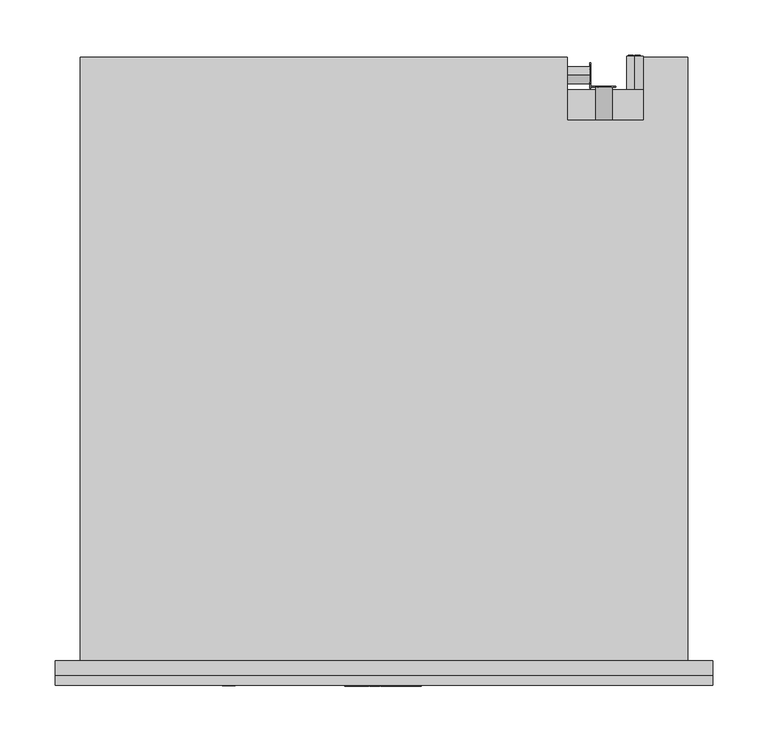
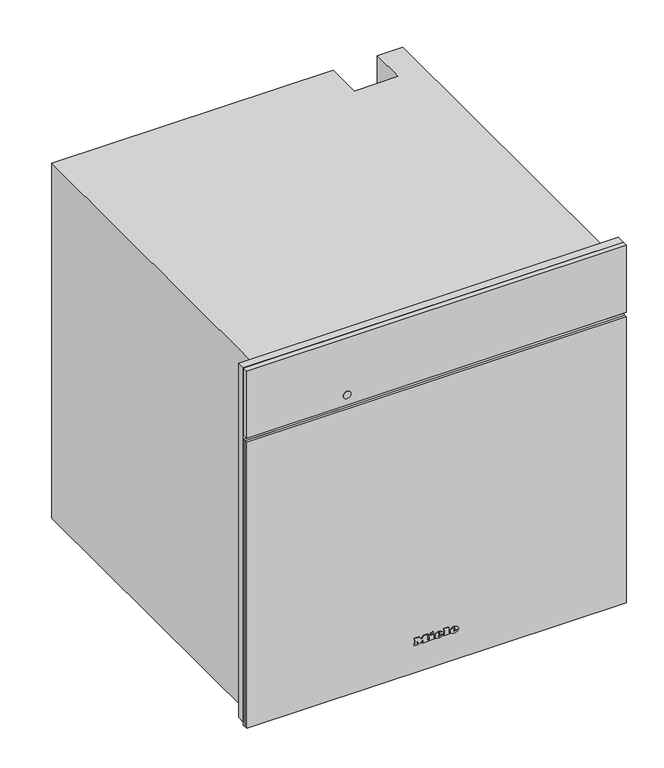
"""IFC4 building model written with IfcOpenShell, lengths in millimetres: proxy geometry, 12095620_F_DGC7865HCXPro_GRGR : 23786579_F_12095620_DGC7865HCXPro_GRGR."""

from ifc_helpers import new_model, si_unit, point, frame, frame_2d, origin, place, context, project, spatial, polyline, circle_curve, ellipse_curve, trimmed, segment, composite_curve, outline, extrude, faceted_brep, source, transform, mapped, element, save
from ifc_brep_helpers import plane_surface, cylinder_surface, revolved_surface, extruded_surface, advanced_brep


def specialty_equipment_e31bad16(model_context):
    return source(origin(), model_context, "Body", "SolidModel", [
        extrude(outline(polyline([(596.0, 297.5), (596.0, -297.5), (9.0, -297.5), (9.0, 297.5), (596.0, 297.5)]), holes=[polyline([(485.0, -272.5), (485.0, 272.5), (27.0, 272.5), (27.0, -272.5), (485.0, -272.5)])]), frame((0.0, -13.0, 0.0), z_axis=(0.0, 1.0, 0.0), x_axis=(0.0, 0.0, 1.0)), (0.0, 0.0, 1.0), 13.0),
        extrude(outline(polyline([(523.0, 196.9217896), (523.0, 198.4267862), (533.0435673, 201.1942402), (533.0435673, 199.9014806), (524.4295103, 197.7797951), (533.0470645, 195.3087512), (533.0470645, 193.4373937), (524.4121052, 190.9191482), (533.0472266, 188.8443938), (533.0472266, 187.5376524), (523.0, 190.2769667), (523.0, 191.6257455), (531.8347238, 194.3884733), (523.0, 196.9217896)])), frame((0.0, 519.0, 0.0), z_axis=(0.0, 1.0, 0.0), x_axis=(0.0, 0.0, 1.0)), (0.0, 0.0, 1.0), 1.0),
        extrude(outline(polyline([(533.0468463, 209.521488), (533.0468463, 208.2566067), (528.129594, 208.2566067), (533.0474898, 203.1074328), (533.0474898, 201.3597489), (528.9313111, 205.6695027), (523.0, 201.1858157), (523.0, 202.7358731), (528.0700777, 206.5685235), (526.4282746, 208.2823622), (523.0, 208.2823622), (523.0, 209.521488), (533.0468463, 209.521488)])), frame((0.0, 519.0, 0.0), z_axis=(0.0, 1.0, 0.0), x_axis=(0.0, 0.0, 1.0)), (0.0, 0.0, 1.0), 1.0),
        extrude(outline(polyline([(518.3136153, 20.0), (522.323529, 30.045631), (523.3928394, 30.045631), (527.4027531, 20.0), (526.0759254, 20.0), (524.925681, 23.1392597), (520.7882348, 23.1392597), (519.640443, 20.0), (518.3136153, 20.0)]), holes=[polyline([(521.2493136, 24.3949636), (524.4670548, 24.3949636), (523.5620651, 26.864678), (522.8581842, 28.7899271), (522.2327848, 27.0805021), (521.2493136, 24.3949636)])]), frame((186.0, 0.0, 0.0), z_axis=(1.0, 0.0, 0.0), x_axis=(0.0, 1.0, 0.0)), (0.0, 0.0, 1.0), 1.0),
        extrude(outline(polyline([(530.5420128, 20.0), (527.8025182, 30.045631), (529.0974628, 30.045631), (530.6867131, 23.4433755), (531.1772224, 21.4053092), (531.7020674, 23.207931), (533.6935352, 30.045631), (535.5599232, 30.045631), (537.0069257, 25.0890343), (538.0835937, 21.4053092), (538.5593878, 23.3845144), (540.1633533, 30.045631), (541.4582979, 30.045631), (538.7163507, 20.0), (537.3748077, 20.0), (534.9664069, 27.7500474), (534.630408, 28.8316204), (534.2527159, 27.5293182), (532.0576866, 20.0), (530.5420128, 20.0)])), frame((186.0, 0.0, 0.0), z_axis=(1.0, 0.0, 0.0), x_axis=(0.0, 1.0, 0.0)), (0.0, 0.0, 1.0), 1.0),
        advanced_brep(
        [(227.0, 547.0, 396.5), (227.0, 547.0, 381.5), (221.4098301, 547.0, 384.0), (225.5, 547.0, 384.0), (225.5, 547.0, 394.0), (224.4955303, 547.0, 394.0), (224.4955303, 547.0, 385.0), (221.0315043, 547.0, 385.0), (221.0315043, 547.0, 384.4582978), (232.0, 547.0, 384.0), (232.0, 547.0, 394.0), (227.0, 547.0, 394.0), (227.0, 547.0, 393.0), (231.0, 547.0, 393.0), (231.0, 547.0, 389.5), (228.0, 547.0, 389.5), (228.0, 547.0, 388.5), (231.0, 547.0, 388.5), (231.0, 547.0, 385.0), (227.0, 547.0, 385.0), (227.0, 547.0, 384.0), (227.0, 517.0, 381.5), (227.0, 517.0, 396.5), (232.0, 548.0, 394.0), (232.0, 548.0, 384.0), (227.0, 548.0, 384.0), (227.0, 548.0, 385.0), (231.0, 548.0, 385.0), (231.0, 548.0, 388.5), (228.0, 548.0, 388.5), (228.0, 548.0, 389.5), (231.0, 548.0, 389.5), (231.0, 548.0, 393.0), (227.0, 548.0, 393.0), (227.0, 548.0, 394.0), (225.5, 548.0, 384.0), (221.0315043, 548.0, 384.0), (221.0315043, 548.0, 385.0), (224.4955303, 548.0, 385.0), (224.4955303, 548.0, 394.0), (225.5, 548.0, 394.0), (221.0315043, 547.0, 384.0)],
        [
            (0, 1, circle_curve(frame((227.0, 547.0, 389.0), z_axis=(0.0, 1.0, 0.0), x_axis=(0.0, 0.0, 1.0)), 7.5)),
            (1, 2, circle_curve(frame((227.0, 547.0, 389.0), z_axis=(0.0, 1.0, 0.0), x_axis=(0.0, 0.0, 1.0)), 7.5)),
            (2, 3),
            (3, 4),
            (4, 5),
            (5, 6),
            (6, 7),
            (7, 8),
            (8, 0, circle_curve(frame((227.0, 547.0, 389.0), z_axis=(0.0, 1.0, 0.0), x_axis=(0.0, 0.0, 1.0)), 7.5)),
            (9, 10),
            (10, 11),
            (11, 12),
            (12, 13),
            (13, 14),
            (14, 15),
            (15, 16),
            (16, 17),
            (17, 18),
            (18, 19),
            (19, 20),
            (20, 9),
            (21, 22, circle_curve(frame((227.0, 517.0, 389.0), z_axis=(0.0, -1.0, 0.0), x_axis=(0.0, 0.0, 1.0)), 7.5)),
            (22, 21, circle_curve(frame((227.0, 517.0, 389.0), z_axis=(0.0, -1.0, 0.0), x_axis=(0.0, 0.0, 1.0)), 7.5)),
            (0, 22),
            (21, 1),
            (8, 2, circle_curve(frame((227.0, 547.0, 389.0), z_axis=(0.0, -1.0, 0.0), x_axis=(0.0, 0.0, 1.0)), 7.5)),
            (23, 24),
            (24, 25),
            (25, 26),
            (26, 27),
            (27, 28),
            (28, 29),
            (29, 30),
            (30, 31),
            (31, 32),
            (32, 33),
            (33, 34),
            (34, 23),
            (35, 36),
            (36, 37),
            (37, 38),
            (38, 39),
            (39, 40),
            (40, 35),
            (8, 41),
            (41, 2),
            (23, 10),
            (9, 24),
            (20, 25),
            (19, 26),
            (18, 27),
            (17, 28),
            (16, 29),
            (15, 30),
            (14, 31),
            (13, 32),
            (12, 33),
            (11, 34),
            (35, 3),
            (41, 36),
            (7, 37),
            (6, 38),
            (5, 39),
            (4, 40),
        ],
        [
            plane_surface(frame((227.0, 547.0, 396.5), z_axis=(0.0, 1.0, 0.0), x_axis=(1.0, 0.0, 0.0))),
            plane_surface(frame((227.0, 517.0, 396.5), z_axis=(0.0, -1.0, 0.0), x_axis=(-1.0, 0.0, 0.0))),
            cylinder_surface(frame((227.0, 547.0, 389.0), z_axis=(0.0, -1.0, 0.0), x_axis=(0.0, 0.0, 1.0)), 7.5),
            plane_surface(frame((232.0, 548.0, 394.0), z_axis=(0.0, 1.0, 0.0), x_axis=(0.0, 0.0, -1.0))),
            plane_surface(frame((232.0, 547.0, 394.0), z_axis=(0.0, -1.0, 0.0), x_axis=(0.0, 0.0, 1.0))),
            plane_surface(frame((232.0, 548.0, 394.0), z_axis=(1.0, 0.0, 0.0), x_axis=(0.0, -1.0, 0.0))),
            plane_surface(frame((232.0, 548.0, 384.0), z_axis=(0.0, 0.0, -1.0), x_axis=(0.0, -1.0, 0.0))),
            plane_surface(frame((227.0, 548.0, 384.0), z_axis=(-1.0, 0.0, 0.0), x_axis=(0.0, -1.0, 0.0))),
            plane_surface(frame((227.0, 548.0, 385.0), z_axis=(0.0, 0.0, 1.0), x_axis=(0.0, -1.0, 0.0))),
            plane_surface(frame((231.0, 548.0, 385.0), z_axis=(-1.0, 0.0, 0.0), x_axis=(0.0, -1.0, 0.0))),
            plane_surface(frame((231.0, 548.0, 388.5), z_axis=(0.0, 0.0, -1.0), x_axis=(0.0, -1.0, 0.0))),
            plane_surface(frame((228.0, 548.0, 388.5), z_axis=(-1.0, 0.0, 0.0), x_axis=(0.0, -1.0, 0.0))),
            plane_surface(frame((228.0, 548.0, 389.5), z_axis=(0.0, 0.0, 1.0), x_axis=(0.0, -1.0, 0.0))),
            plane_surface(frame((231.0, 548.0, 389.5), z_axis=(-1.0, 0.0, 0.0), x_axis=(0.0, -1.0, 0.0))),
            plane_surface(frame((231.0, 548.0, 393.0), z_axis=(0.0, 0.0, -1.0), x_axis=(0.0, -1.0, 0.0))),
            plane_surface(frame((227.0, 548.0, 393.0), z_axis=(-1.0, 0.0, 0.0), x_axis=(0.0, -1.0, 0.0))),
            plane_surface(frame((227.0, 548.0, 394.0), z_axis=(0.0, 0.0, 1.0), x_axis=(0.0, -1.0, 0.0))),
            plane_surface(frame((225.5, 548.0, 384.0), z_axis=(0.0, 0.0, -1.0), x_axis=(0.0, -1.0, 0.0))),
            plane_surface(frame((221.0315043, 548.0, 384.0), z_axis=(-1.0, 0.0, 0.0), x_axis=(0.0, -1.0, 0.0))),
            plane_surface(frame((221.0315043, 548.0, 385.0), z_axis=(0.0, 0.0, 1.0), x_axis=(0.0, -1.0, 0.0))),
            plane_surface(frame((224.4955303, 548.0, 385.0), z_axis=(-1.0, 0.0, 0.0), x_axis=(0.0, -1.0, 0.0))),
            plane_surface(frame((224.4955303, 548.0, 394.0), z_axis=(0.0, 0.0, 1.0), x_axis=(0.0, -1.0, 0.0))),
            plane_surface(frame((225.5, 548.0, 394.0), z_axis=(1.0, 0.0, 0.0), x_axis=(0.0, -1.0, 0.0))),
        ],
        [
            (0, [[1, 2, 3, 4, 5, 6, 7, 8, 9], [10, 11, 12, 13, 14, 15, 16, 17, 18, 19, 20, 21]]),
            (1, [[22, 23]]),
            (2, [[-1, 24, -22, 25]]),
            (2, [[-23, -24, -9, 26, -2, -25]]),
            (3, [[27, 28, 29, 30, 31, 32, 33, 34, 35, 36, 37, 38]]),
            (3, [[39, 40, 41, 42, 43, 44]]),
            (4, [[45, 46, -26]]),
            (5, [[-27, 47, -10, 48]]),
            (6, [[-28, -48, -21, 49]]),
            (7, [[-29, -49, -20, 50]]),
            (8, [[-30, -50, -19, 51]]),
            (9, [[-31, -51, -18, 52]]),
            (10, [[-32, -52, -17, 53]]),
            (11, [[-33, -53, -16, 54]]),
            (12, [[-34, -54, -15, 55]]),
            (13, [[-35, -55, -14, 56]]),
            (14, [[-36, -56, -13, 57]]),
            (15, [[-37, -57, -12, 58]]),
            (16, [[-38, -58, -11, -47]]),
            (17, [[-39, 59, -3, -46, 60]]),
            (18, [[-40, -60, -45, -8, 61]]),
            (19, [[-41, -61, -7, 62]]),
            (20, [[-42, -62, -6, 63]]),
            (21, [[-43, -63, -5, 64]]),
            (22, [[-44, -64, -4, -59]]),
        ],
    ),
        extrude(outline(composite_curve([segment(trimmed(circle_curve(frame_2d((528.0, 199.0)), 7.5), [point((528.0, 206.5))], [point((528.0, 191.5))], False, "CARTESIAN"), True, "CONTINUOUS"), segment(trimmed(circle_curve(frame_2d((528.0, 199.0)), 7.5), [point((528.0, 191.5))], [point((528.0, 206.5))], False, "CARTESIAN"), True, "CONTINUOUS")], self_intersect=False)), frame((0.0, 489.0, 0.0), z_axis=(0.0, 1.0, 0.0), x_axis=(0.0, 0.0, 1.0)), (0.0, 0.0, 1.0), 30.0),
        extrude(outline(composite_curve([segment(trimmed(circle_curve(frame_2d((530.0, 25.0)), 7.5), [point((530.0, 17.5))], [point((530.0, 32.5))], False, "CARTESIAN"), True, "CONTINUOUS"), segment(trimmed(circle_curve(frame_2d((530.0, 25.0)), 7.5), [point((530.0, 32.5))], [point((530.0, 17.5))], False, "CARTESIAN"), True, "CONTINUOUS")], self_intersect=False)), frame((166.0, 0.0, 0.0), z_axis=(1.0, 0.0, 0.0), x_axis=(0.0, 1.0, 0.0)), (0.0, 0.0, 1.0), 20.0),
        faceted_brep([(-275.0, 546.0, 0.0), (-275.0, 546.0, 588.0), (166.0, 546.0, 588.0), (166.0, 546.0, 0.0), (235.0, 546.0, 588.0), (275.0, 546.0, 588.0), (275.0, 546.0, 478.0), (235.0, 546.0, 478.0), (275.0, 0.0, 588.0), (-275.0, 0.0, 588.0), (-275.0, 0.0, 0.0), (275.0, 0.0, 0.0), (-272.5, 0.0, 485.0), (272.5, 0.0, 485.0), (272.5, 0.0, 27.0), (-272.5, 0.0, 27.0), (235.0, 489.0, 588.0), (166.0, 489.0, 588.0), (166.0, 517.0, 0.0), (275.0, 517.0, 0.0), (275.0, 517.0, 478.0), (272.5, 17.0, 485.0), (-272.5, 17.0, 485.0), (-272.5, 17.0, 27.0), (272.5, 17.0, 27.0), (231.0, 17.0, 409.0), (231.0, 17.0, 61.0), (-231.0, 17.0, 61.0), (-231.0, 17.0, 409.0), (231.0, 411.0, 409.0), (-231.0, 411.0, 409.0), (-231.0, 411.0, 61.0), (231.0, 411.0, 61.0), (235.0, 489.0, 477.0), (166.0, 489.0, 477.0), (166.0, 517.0, 477.0), (235.0, 517.0, 477.0), (235.0, 517.0, 478.0)], [[[0, 1, 2, 3]], [[4, 5, 6, 7]], [[8, 9, 10, 11], [12, 13, 14, 15]], [[9, 8, 5, 4, 16, 17, 2, 1]], [[1, 0, 10, 9]], [[11, 10, 0, 3, 18, 19]], [[8, 11, 19, 20, 6, 5]], [[21, 22, 23, 24], [25, 26, 27, 28]], [[22, 21, 13, 12]], [[23, 22, 12, 15]], [[24, 23, 15, 14]], [[21, 24, 14, 13]], [[29, 30, 31, 32]], [[29, 32, 26, 25]], [[32, 31, 27, 26]], [[31, 30, 28, 27]], [[30, 29, 25, 28]], [[16, 33, 34, 17]], [[17, 34, 35, 18, 3, 2]], [[34, 33, 36, 35]], [[33, 16, 4, 7, 37, 36]], [[37, 20, 19, 18, 35, 36]], [[20, 37, 7, 6]]]),
        advanced_brep(
        [(26.2998, -23.0, 52.7018), (26.2998, -23.0, 53.8532), (33.9264, -23.0, 53.8532), (20.6568, -23.0, 53.8532), (23.7918, -23.0, 50.0), (33.7326, -23.0, 52.7018), (30.2898, -23.0, 52.7018), (27.5766, -23.0, 51.425), (26.2998, -23.0, 55.3124), (26.2998, -23.0, 56.555), (28.2492, -23.0, 56.555), (28.2492, -23.0, 55.3124), (26.2998, -22.0, 52.7018), (27.5766, -22.0, 51.425), (30.2898, -22.0, 52.7018), (33.7326, -22.0, 52.7018), (23.7918, -22.0, 50.0), (20.6568, -22.0, 53.8532), (33.9264, -22.0, 53.8532), (26.2998, -22.0, 53.8532), (26.2998, -22.0, 55.3124), (28.2492, -22.0, 55.3124), (28.2492, -22.0, 56.555), (26.2998, -22.0, 56.555)],
        [
            (0, 1),
            (1, 2),
            (2, 3, ellipse_curve(frame((27.2916, -23.0, 53.8532), z_axis=(0.0, -1.0, 0.0), x_axis=(-1.0, 0.0, 0.0)), 6.6348, 5.4834)),
            (3, 4, circle_curve(frame((25.0686622, -23.0, 54.2408), z_axis=(0.0, -1.0, 0.0), x_axis=(0.0, 0.0, -1.0)), 4.4288556)),
            (4, 5, circle_curve(frame((27.1587808, -23.0, 57.2504), z_axis=(0.0, -1.0, 0.0), x_axis=(0.0, 0.0, -1.0)), 7.9940516)),
            (5, 6),
            (6, 7, circle_curve(frame((28.1338588, -23.0, 53.762), z_axis=(0.0, 1.0, 0.0), x_axis=(0.0, 0.0, -1.0)), 2.4025208)),
            (7, 0, circle_curve(frame((27.5766, -23.0, 52.7018), z_axis=(0.0, 1.0, 0.0), x_axis=(0.0, 0.0, -1.0)), 1.2768)),
            (8, 9),
            (9, 10, circle_curve(frame((27.2745, -23.0, 56.555), z_axis=(0.0, 1.0, 0.0), x_axis=(0.0, 0.0, -1.0)), 0.9747)),
            (10, 11),
            (11, 8),
            (12, 13, circle_curve(frame((27.5766, -22.0, 52.7018), z_axis=(0.0, -1.0, 0.0), x_axis=(0.0, 0.0, -1.0)), 1.2768)),
            (13, 14, circle_curve(frame((28.1338588, -22.0, 53.762), z_axis=(0.0, -1.0, 0.0), x_axis=(0.0, 0.0, -1.0)), 2.4025208)),
            (14, 15),
            (15, 16, circle_curve(frame((27.1587808, -22.0, 57.2504), z_axis=(0.0, 1.0, 0.0), x_axis=(0.0, 0.0, -1.0)), 7.9940516)),
            (16, 17, circle_curve(frame((25.0686622, -22.0, 54.2408), z_axis=(0.0, 1.0, 0.0), x_axis=(0.0, 0.0, -1.0)), 4.4288556)),
            (17, 18, ellipse_curve(frame((27.2916, -22.0, 53.8532), z_axis=(0.0, 1.0, 0.0), x_axis=(-1.0, 0.0, 0.0)), 6.6348, 5.4834)),
            (18, 19),
            (19, 12),
            (20, 21),
            (21, 22),
            (22, 23, circle_curve(frame((27.2745, -22.0, 56.555), z_axis=(0.0, -1.0, 0.0), x_axis=(0.0, 0.0, -1.0)), 0.9747)),
            (23, 20),
            (0, 12),
            (19, 1),
            (18, 2),
            (5, 15),
            (14, 6),
            (17, 3),
            (13, 7),
            (16, 4),
            (8, 20),
            (23, 9),
            (22, 10),
            (21, 11),
        ],
        [
            plane_surface(frame((26.2998, -23.0, 53.8532), z_axis=(0.0, -1.0, 0.0), x_axis=(0.0, 0.0, 1.0))),
            plane_surface(frame((26.2998, -22.0, 53.8532), z_axis=(0.0, 1.0, 0.0), x_axis=(0.0, 0.0, -1.0))),
            plane_surface(frame((26.2998, -23.0, 52.7018), z_axis=(1.0, 0.0, 0.0), x_axis=(0.0, 1.0, 0.0))),
            plane_surface(frame((26.2998, -23.0, 53.8532), z_axis=(0.0, 0.0, -1.0), x_axis=(0.0, 1.0, 0.0))),
            plane_surface(frame((33.7326, -23.0, 52.7018), z_axis=(0.0, 0.0, 1.0), x_axis=(0.0, 1.0, 0.0))),
            extruded_surface(trimmed(ellipse_curve(frame((27.2916, -21.0, 53.8532), z_axis=(0.0, -1.0, 0.0), x_axis=(-1.0, 0.0, 0.0)), 6.6348, 5.4834), [point((33.9264, -21.0, 53.8532))], [point((20.6568, -21.0, 53.8532))], True, "CARTESIAN"), (0.0, -1.0, 0.0), 1.0),
            revolved_surface(polyline([(28.1338588, -22.0, 51.3594792), (28.1338588, -23.0, 51.3594792)]), (28.1338588, -22.0, 53.762), (0.0, 1.0, 0.0)),
            revolved_surface(polyline([(27.5766, -22.0, 51.425), (27.5766, -23.0, 51.425)]), (27.5766, -22.0, 52.7018), (0.0, 1.0, 0.0)),
            cylinder_surface(frame((25.0686622, -22.0, 54.2408), z_axis=(0.0, -1.0, 0.0), x_axis=(0.0, 0.0, -1.0)), 4.4288556),
            cylinder_surface(frame((27.1587808, -22.0, 57.2504), z_axis=(0.0, -1.0, 0.0), x_axis=(0.0, 0.0, -1.0)), 7.9940516),
            plane_surface(frame((26.2998, -23.0, 55.3124), z_axis=(1.0, 0.0, 0.0), x_axis=(0.0, 1.0, 0.0))),
            revolved_surface(polyline([(27.2745, -22.0, 55.5803), (27.2745, -23.0, 55.5803)]), (27.2745, -22.0, 56.555), (0.0, 1.0, 0.0)),
            plane_surface(frame((28.2492, -23.0, 56.555), z_axis=(-1.0, 0.0, 0.0), x_axis=(0.0, 1.0, 0.0))),
            plane_surface(frame((28.2492, -23.0, 55.3124), z_axis=(0.0, 0.0, 1.0), x_axis=(0.0, 1.0, 0.0))),
        ],
        [
            (0, [[1, 2, 3, 4, 5, 6, 7, 8], [9, 10, 11, 12]]),
            (1, [[13, 14, 15, 16, 17, 18, 19, 20], [21, 22, 23, 24]]),
            (2, [[-1, 25, -20, 26]]),
            (3, [[-2, -26, -19, 27]]),
            (4, [[-6, 28, -15, 29]]),
            (5, [[-3, -27, -18, 30]]),
            (6, [[-7, -29, -14, 31]]),
            (7, [[-8, -31, -13, -25]]),
            (8, [[-4, -30, -17, 32]]),
            (9, [[-5, -32, -16, -28]]),
            (10, [[-9, 33, -24, 34]]),
            (11, [[-10, -34, -23, 35]]),
            (12, [[-11, -35, -22, 36]]),
            (13, [[-12, -36, -21, -33]]),
        ],
    ),
        advanced_brep(
        [(2.508, -23.0, 52.7018), (2.508, -23.0, 53.8532), (10.1346, -23.0, 53.8532), (-3.135, -23.0, 53.8532), (0.0, -23.0, 50.0), (9.9408, -23.0, 52.7018), (6.498, -23.0, 52.7018), (3.7848, -23.0, 51.425), (2.508, -23.0, 55.3124), (2.508, -23.0, 56.555), (4.4574, -23.0, 56.555), (4.4574, -23.0, 55.3124), (2.508, -22.0, 52.7018), (3.7848, -22.0, 51.425), (6.498, -22.0, 52.7018), (9.9408, -22.0, 52.7018), (0.0, -22.0, 50.0), (-3.135, -22.0, 53.8532), (10.1346, -22.0, 53.8532), (2.508, -22.0, 53.8532), (2.508, -22.0, 55.3124), (4.4574, -22.0, 55.3124), (4.4574, -22.0, 56.555), (2.508, -22.0, 56.555)],
        [
            (0, 1),
            (1, 2),
            (2, 3, ellipse_curve(frame((3.4998, -23.0, 53.8532), z_axis=(0.0, -1.0, 0.0), x_axis=(-1.0, 0.0, 0.0)), 6.6348, 5.4834)),
            (3, 4, circle_curve(frame((1.2768622, -23.0, 54.2408), z_axis=(0.0, -1.0, 0.0), x_axis=(0.0, 0.0, -1.0)), 4.4288556)),
            (4, 5, circle_curve(frame((3.3669808, -23.0, 57.2504), z_axis=(0.0, -1.0, 0.0), x_axis=(0.0, 0.0, -1.0)), 7.9940516)),
            (5, 6),
            (6, 7, circle_curve(frame((4.3420588, -23.0, 53.762), z_axis=(0.0, 1.0, 0.0), x_axis=(0.0, 0.0, -1.0)), 2.4025208)),
            (7, 0, circle_curve(frame((3.7848, -23.0, 52.7018), z_axis=(0.0, 1.0, 0.0), x_axis=(0.0, 0.0, -1.0)), 1.2768)),
            (8, 9),
            (9, 10, circle_curve(frame((3.4827, -23.0, 56.555), z_axis=(0.0, 1.0, 0.0), x_axis=(0.0, 0.0, -1.0)), 0.9747)),
            (10, 11),
            (11, 8),
            (12, 13, circle_curve(frame((3.7848, -22.0, 52.7018), z_axis=(0.0, -1.0, 0.0), x_axis=(0.0, 0.0, -1.0)), 1.2768)),
            (13, 14, circle_curve(frame((4.3420588, -22.0, 53.762), z_axis=(0.0, -1.0, 0.0), x_axis=(0.0, 0.0, -1.0)), 2.4025208)),
            (14, 15),
            (15, 16, circle_curve(frame((3.3669808, -22.0, 57.2504), z_axis=(0.0, 1.0, 0.0), x_axis=(0.0, 0.0, -1.0)), 7.9940516)),
            (16, 17, circle_curve(frame((1.2768622, -22.0, 54.2408), z_axis=(0.0, 1.0, 0.0), x_axis=(0.0, 0.0, -1.0)), 4.4288556)),
            (17, 18, ellipse_curve(frame((3.4998, -22.0, 53.8532), z_axis=(0.0, 1.0, 0.0), x_axis=(-1.0, 0.0, 0.0)), 6.6348, 5.4834)),
            (18, 19),
            (19, 12),
            (20, 21),
            (21, 22),
            (22, 23, circle_curve(frame((3.4827, -22.0, 56.555), z_axis=(0.0, -1.0, 0.0), x_axis=(0.0, 0.0, -1.0)), 0.9747)),
            (23, 20),
            (0, 12),
            (19, 1),
            (18, 2),
            (5, 15),
            (14, 6),
            (17, 3),
            (13, 7),
            (16, 4),
            (8, 20),
            (23, 9),
            (22, 10),
            (21, 11),
        ],
        [
            plane_surface(frame((2.508, -23.0, 53.8532), z_axis=(0.0, -1.0, 0.0), x_axis=(0.0, 0.0, 1.0))),
            plane_surface(frame((2.508, -22.0, 53.8532), z_axis=(0.0, 1.0, 0.0), x_axis=(0.0, 0.0, -1.0))),
            plane_surface(frame((2.508, -23.0, 52.7018), z_axis=(1.0, 0.0, 0.0), x_axis=(0.0, 1.0, 0.0))),
            plane_surface(frame((2.508, -23.0, 53.8532), z_axis=(0.0, 0.0, -1.0), x_axis=(0.0, 1.0, 0.0))),
            plane_surface(frame((9.9408, -23.0, 52.7018), z_axis=(0.0, 0.0, 1.0), x_axis=(0.0, 1.0, 0.0))),
            extruded_surface(trimmed(ellipse_curve(frame((3.4998, -21.0, 53.8532), z_axis=(0.0, -1.0, 0.0), x_axis=(-1.0, 0.0, 0.0)), 6.6348, 5.4834), [point((10.1346, -21.0, 53.8532))], [point((-3.135, -21.0, 53.8532))], True, "CARTESIAN"), (0.0, -1.0, 0.0), 1.0),
            revolved_surface(polyline([(4.3420588, -22.0, 51.3594792), (4.3420588, -23.0, 51.3594792)]), (4.3420588, -22.0, 53.762), (0.0, 1.0, 0.0)),
            revolved_surface(polyline([(3.7848, -22.0, 51.425), (3.7848, -23.0, 51.425)]), (3.7848, -22.0, 52.7018), (0.0, 1.0, 0.0)),
            cylinder_surface(frame((1.2768622, -22.0, 54.2408), z_axis=(0.0, -1.0, 0.0), x_axis=(0.0, 0.0, -1.0)), 4.4288556),
            cylinder_surface(frame((3.3669808, -22.0, 57.2504), z_axis=(0.0, -1.0, 0.0), x_axis=(0.0, 0.0, -1.0)), 7.9940516),
            plane_surface(frame((2.508, -23.0, 55.3124), z_axis=(1.0, 0.0, 0.0), x_axis=(0.0, 1.0, 0.0))),
            revolved_surface(polyline([(3.4827, -22.0, 55.5803), (3.4827, -23.0, 55.5803)]), (3.4827, -22.0, 56.555), (0.0, 1.0, 0.0)),
            plane_surface(frame((4.4574, -23.0, 56.555), z_axis=(-1.0, 0.0, 0.0), x_axis=(0.0, 1.0, 0.0))),
            plane_surface(frame((4.4574, -23.0, 55.3124), z_axis=(0.0, 0.0, 1.0), x_axis=(0.0, 1.0, 0.0))),
        ],
        [
            (0, [[1, 2, 3, 4, 5, 6, 7, 8], [9, 10, 11, 12]]),
            (1, [[13, 14, 15, 16, 17, 18, 19, 20], [21, 22, 23, 24]]),
            (2, [[-1, 25, -20, 26]]),
            (3, [[-2, -26, -19, 27]]),
            (4, [[-6, 28, -15, 29]]),
            (5, [[-3, -27, -18, 30]]),
            (6, [[-7, -29, -14, 31]]),
            (7, [[-8, -31, -13, -25]]),
            (8, [[-4, -30, -17, 32]]),
            (9, [[-5, -32, -16, -28]]),
            (10, [[-9, 33, -24, 34]]),
            (11, [[-10, -34, -23, 35]]),
            (12, [[-11, -35, -22, 36]]),
            (13, [[-12, -36, -21, -33]]),
        ],
    ),
        extrude(outline(polyline([(60.7274, -9.9522), (58.8806, -9.0858), (60.6818, -5.2212), (62.5286, -6.0762), (60.7274, -9.9522)])), frame((0.0, -23.0, 0.0), z_axis=(0.0, 1.0, 0.0), x_axis=(0.0, 0.0, 1.0)), (0.0, 0.0, 1.0), 1.0),
        extrude(outline(polyline([(58.6298, -12.768), (56.5892, -12.768), (56.5892, -11.4114), (51.9152, -11.4114), (51.9152, -12.768), (50.0, -12.768), (50.0, -3.7734), (51.9152, -3.7734), (51.9152, -5.0958), (58.6298, -5.0958), (58.6298, -12.768)])), frame((0.0, -23.0, 0.0), z_axis=(0.0, 1.0, 0.0), x_axis=(0.0, 0.0, 1.0)), (0.0, 0.0, 1.0), 1.0),
        extrude(outline(polyline([(59.5418, 10.773), (59.5418, 12.141), (51.9152, 12.141), (51.9152, 10.773), (50.0, 10.773), (50.0, 20.0184), (51.9152, 20.0184), (51.9152, 18.6162), (61.4, 18.6162), (61.4, 10.773), (59.5418, 10.773)])), frame((0.0, -23.0, 0.0), z_axis=(0.0, 1.0, 0.0), x_axis=(0.0, 0.0, 1.0)), (0.0, 0.0, 1.0), 1.0),
        extrude(outline(polyline([(59.5418, -35.4882), (59.5418, -34.1088), (51.9152, -34.1088), (51.9152, -35.4882), (50.0, -35.4882), (50.0, -30.4722), (51.9152, -30.4722), (51.9152, -31.8402), (56.7429247, -31.8402), (50.0, -26.7444), (56.9402223, -21.6258), (51.9152, -21.6258), (51.9152, -23.028), (50.0, -23.028), (50.0, -13.9308), (51.9152, -13.9308), (51.9152, -15.3786), (59.5418, -15.3786), (59.5418, -13.9308), (61.4, -13.9308), (61.4, -20.8734), (57.125, -24.2022), (61.4, -27.5424), (61.4, -35.4882), (59.5418, -35.4882)])), frame((0.0, -23.0, 0.0), z_axis=(0.0, 1.0, 0.0), x_axis=(0.0, 0.0, 1.0)), (0.0, 0.0, 1.0), 1.0),
        extrude(outline(polyline([(297.5, -22.0), (-297.5, -22.0), (-297.5, -13.0), (297.5, -13.0), (297.5, -22.0)])), frame((0.0, 0.0, 485.0), z_axis=(0.0, 0.0, 1.0), x_axis=(1.0, 0.0, 0.0)), (0.0, 0.0, 1.0), 111.0),
        extrude(outline(composite_curve([segment(trimmed(circle_curve(frame_2d((502.0, -140.5745637)), 6.0), [point((502.0, -146.5745637))], [point((502.0, -134.5745637))], False, "CARTESIAN"), True, "CONTINUOUS"), segment(trimmed(circle_curve(frame_2d((502.0, -140.5745637)), 6.0), [point((502.0, -134.5745637))], [point((502.0, -146.5745637))], False, "CARTESIAN"), True, "CONTINUOUS")], self_intersect=False)), frame((0.0, -22.5, 0.0), z_axis=(0.0, 1.0, 0.0), x_axis=(0.0, 0.0, 1.0)), (0.0, 0.0, 1.0), 1.0),
        extrude(outline(polyline([(-297.5, -18.0), (297.5, -18.0), (297.5, -22.0), (-297.5, -22.0), (-297.5, -18.0)])), frame((0.0, 0.0, 4.0), z_axis=(0.0, 0.0, 1.0), x_axis=(1.0, 0.0, 0.0)), (0.0, 0.0, 1.0), 474.0),
        extrude(outline(polyline([(297.5, -18.0), (-297.5, -18.0), (-297.5, -13.0), (297.5, -13.0), (297.5, -18.0)])), frame((0.0, 0.0, 4.0), z_axis=(0.0, 0.0, 1.0), x_axis=(1.0, 0.0, 0.0)), (0.0, 0.0, 1.0), 474.0),
    ])


if __name__ == "__main__":
    model = new_model("IFC4")
    model_context = context("Model", 3, world=origin())
    ifc_project = project(units=[si_unit("LENGTHUNIT", "METRE", prefix="MILLI")], contexts=[model_context])
    site = spatial("IfcSite", under=ifc_project)
    building = spatial("IfcBuilding", under=site)
    placement = place(None, origin())
    specialty_equipment_shape = specialty_equipment_e31bad16(model_context)
    element("IfcBuildingElementProxy", 1, Name="12095620_F_DGC7865HCXPro_GRGR : 23786579_F_12095620_DGC7865HCXPro_GRGR", ObjectType="12095620_F_DGC7865HCXPro_GRGR : 23786579_F_12095620_DGC7865HCXPro_GRGR", at=placement, inside=building, context=model_context, shape_type="MappedRepresentation", body=[
        mapped(specialty_equipment_shape, transform((0.0, 0.0, 0.0), x_axis=(1.0, 0.0, 0.0), y_axis=(0.0, 1.0, 0.0), z_axis=(0.0, 0.0, 1.0))),
    ])
    save(model, "model.ifc")
